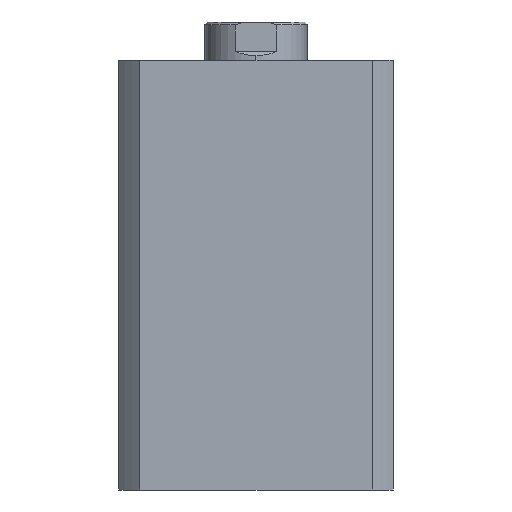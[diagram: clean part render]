
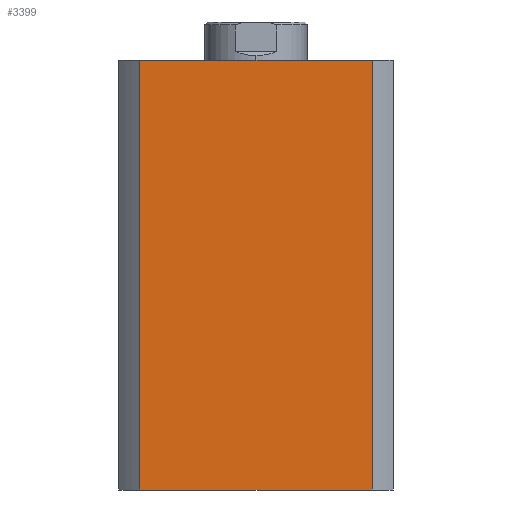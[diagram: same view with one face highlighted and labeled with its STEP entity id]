
A CAD part, left-side view. The second image highlights one B-rep face of the part: STEP entity #3399.
In plain terms, the highlighted planar face has unit normal (-1, 0, 0).
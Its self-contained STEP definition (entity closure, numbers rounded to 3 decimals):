
#387 = AXIS2_PLACEMENT_3D ( 'NONE', #4288, #3976, #2438 ) ;
#495 = DIRECTION ( 'NONE',  ( 0., 0., -1. ) ) ;
#502 = CARTESIAN_POINT ( 'NONE',  ( -47., 39.664, 147. ) ) ;
#504 = CARTESIAN_POINT ( 'NONE',  ( -47., 0., 0. ) ) ;
#509 = DIRECTION ( 'NONE',  ( 0., -1., 0. ) ) ;
#510 = CARTESIAN_POINT ( 'NONE',  ( -47., -39.664, 147. ) ) ;
#512 = DIRECTION ( 'NONE',  ( 0., 0., -1. ) ) ;
#653 = DIRECTION ( 'NONE',  ( 0., -1., 0. ) ) ;
#658 = CARTESIAN_POINT ( 'NONE',  ( -47., 0., 147. ) ) ;
#748 = LINE ( 'NONE', #658, #750 ) ;
#750 = VECTOR ( 'NONE', #653, 1000. ) ;
#788 = LINE ( 'NONE', #504, #794 ) ;
#790 = LINE ( 'NONE', #502, #792 ) ;
#792 = VECTOR ( 'NONE', #495, 1000. ) ;
#793 = LINE ( 'NONE', #510, #796 ) ;
#794 = VECTOR ( 'NONE', #509, 1000. ) ;
#796 = VECTOR ( 'NONE', #512, 1000. ) ;
#1205 = VERTEX_POINT ( 'NONE', #3239 ) ;
#1206 = VERTEX_POINT ( 'NONE', #3265 ) ;
#1562 = VERTEX_POINT ( 'NONE', #2785 ) ;
#1563 = VERTEX_POINT ( 'NONE', #2811 ) ;
#2318 = EDGE_CURVE ( 'NONE', #1562, #1563, #748, .T. ) ;
#2351 = EDGE_CURVE ( 'NONE', #1562, #1205, #790, .T. ) ;
#2352 = EDGE_CURVE ( 'NONE', #1205, #1206, #788, .T. ) ;
#2353 = EDGE_CURVE ( 'NONE', #1563, #1206, #793, .T. ) ;
#2438 = DIRECTION ( 'NONE',  ( 0., 0., -1. ) ) ;
#2785 = CARTESIAN_POINT ( 'NONE',  ( -47., 39.664, 147. ) ) ;
#2811 = CARTESIAN_POINT ( 'NONE',  ( -47., -39.664, 147. ) ) ;
#3030 = ORIENTED_EDGE ( 'NONE', *, *, #2351, .T. ) ;
#3031 = ORIENTED_EDGE ( 'NONE', *, *, #2318, .F. ) ;
#3032 = ORIENTED_EDGE ( 'NONE', *, *, #2353, .F. ) ;
#3033 = ORIENTED_EDGE ( 'NONE', *, *, #2352, .T. ) ;
#3239 = CARTESIAN_POINT ( 'NONE',  ( -47., 39.664, 0. ) ) ;
#3265 = CARTESIAN_POINT ( 'NONE',  ( -47., -39.664, 0. ) ) ;
#3399 = ADVANCED_FACE ( 'NONE', ( #4497 ), #4293, .F. ) ;
#3660 = EDGE_LOOP ( 'NONE', ( #3033, #3032, #3031, #3030 ) ) ;
#3976 = DIRECTION ( 'NONE',  ( 1., 0., 0. ) ) ;
#4288 = CARTESIAN_POINT ( 'NONE',  ( -47., 0., 147. ) ) ;
#4293 = PLANE ( 'NONE',  #387 ) ;
#4497 = FACE_OUTER_BOUND ( 'NONE', #3660, .T. ) ;
